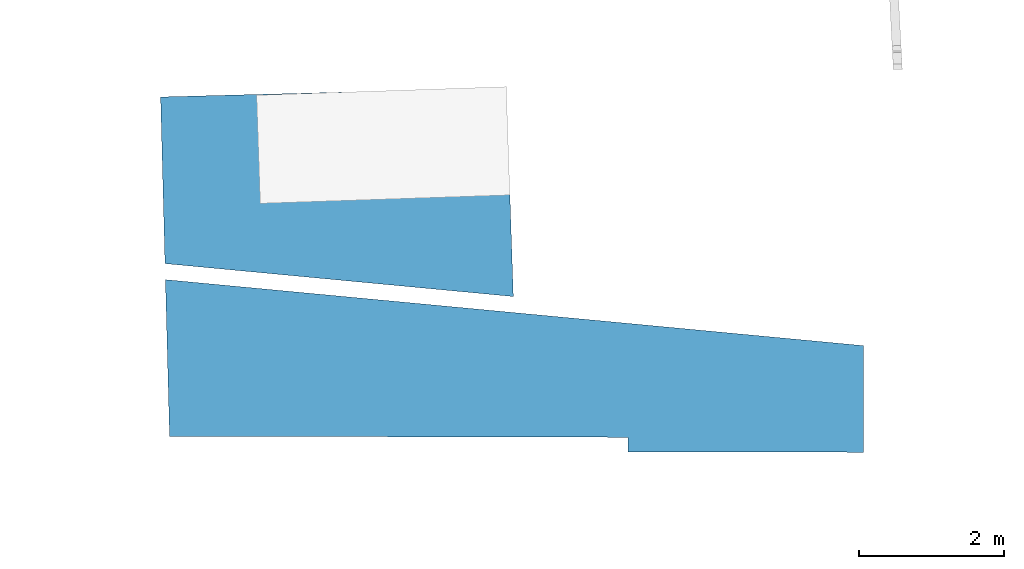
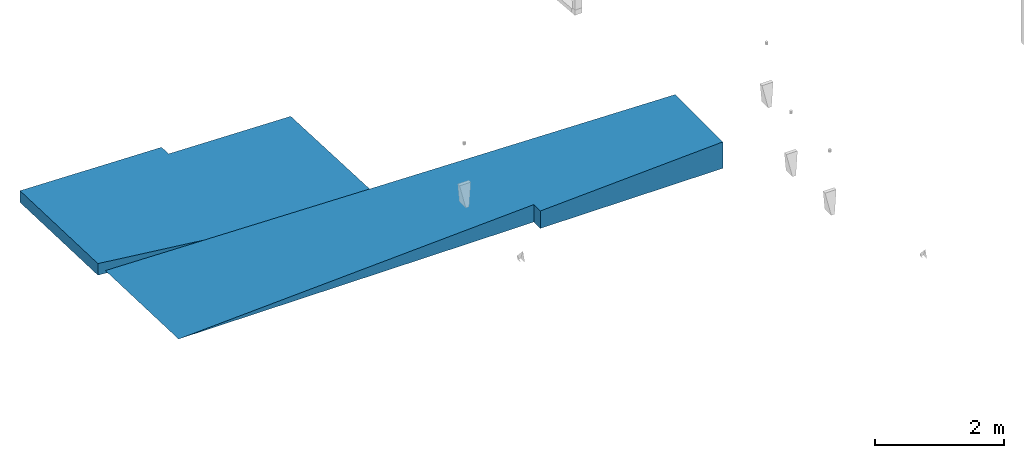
# One storey, part 2 of 4: 2 ramps.
"""IFC2X3 building model written with IfcOpenShell, lengths in metres."""

from ifc_helpers import new_model, entity, si_unit, converted_unit, derived_unit, direction, frame, origin, place, context, subcontext, project, spatial, faceted_brep, material, type_object, element, save


model = new_model("IFC2X3")

# Units and contexts
model_context = context("Model", 3, precision=1e-05, world=origin(), true_north=direction((6.123031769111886e-17, 1.0)))
body_context = subcontext(model_context, "Body", "Model", "MODEL_VIEW")
ifc_project = project(units=[si_unit("LENGTHUNIT", "METRE"), si_unit("AREAUNIT", "SQUARE_METRE"), converted_unit("PLANEANGLEUNIT", "DEGREE", entity("IfcPlaneAngleMeasure", 0.017453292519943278), si_unit("PLANEANGLEUNIT", "RADIAN"), dimensions=[0, 0, 0, 0, 0, 0, 0]), derived_unit("THERMALTRANSMITTANCEUNIT", [(si_unit("MASSUNIT", "GRAM", prefix="KILO"), 1), (si_unit("THERMODYNAMICTEMPERATUREUNIT", "KELVIN"), -1), (si_unit("TIMEUNIT", "SECOND"), -3)])], contexts=[model_context])

# Site, building, storey
site_placement = place(None, origin())
site = spatial("IfcSite", under=ifc_project, at=site_placement, Name="Default", CompositionType="ELEMENT")
building_placement = place(site_placement, origin())
building = spatial("IfcBuilding", under=site, at=building_placement, CompositionType="ELEMENT")
storey_placement = place(building_placement, frame((0.0, 0.0, -4.0)))
storey = spatial("IfcBuildingStorey", under=building, at=storey_placement, Name="Fondations", CompositionType="ELEMENT", Elevation=-3.999999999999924)

# Ramps
ifc_material = material(Name="ARC - Béton")
type_product_1 = type_object("IfcTypeProduct", Name="Rampe d'accès:Ra_Acces_700mm_Plein")
ramp_1_placement = place(storey_placement, frame((11.881771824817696, 147.288048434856, 3.2784047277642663)))
element("IfcRamp", 1, at=ramp_1_placement, inside=storey, type_object=type_product_1, material=ifc_material, Name="Rampe d'accès:Ra_Acces_700mm_Plein", ObjectType="Rampe d'accès:Ra_Acces_700mm_Plein", ShapeType="NOTDEFINED", context=body_context, shape_type="Brep", body=[
    faceted_brep([(0.0625595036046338, 0.45733905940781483, 0.0015952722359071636), (0.06255950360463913, 0.4573390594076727, 0.22159527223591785), (0.0015952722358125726, 2.762980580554, 0.22159527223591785), (0.0015952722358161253, 2.7629805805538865, 0.0015952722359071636), (4.54579291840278, 2.6732437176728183, 0.012908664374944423), (4.652586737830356, 1.3344860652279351, 0.010057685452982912), (4.8119040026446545, 2.0846043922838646, 0.0015952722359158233), (4.030727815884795, 1.4073843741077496, 0.03845897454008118), (3.7210665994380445, 1.5070019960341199, 0.05251172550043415), (3.8110777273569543, 0.10287182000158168, 0.05044962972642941), (4.801878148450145, 2.3821771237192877, 0.0015952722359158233), (4.791852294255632, 2.6797498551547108, 0.0015952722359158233), (2.5773180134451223, 2.621194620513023, 0.10341761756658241), (2.3689429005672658, 1.5042702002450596, 0.11452901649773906), (2.472319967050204, 0.22946738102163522, 0.11154619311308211), (2.2045685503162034, 0.25478648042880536, 0.12376846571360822), (2.174186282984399, 1.7378399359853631, 0.12314386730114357), (4.346581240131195, 0.05223355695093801, 0.02601994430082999), (4.633090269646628, 0.025140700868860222, 0.012952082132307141), (4.466412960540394, 1.3473077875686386, 0.018573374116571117), (3.5408098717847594, 1.409146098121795, 0.0609209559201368), (3.315496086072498, 2.640713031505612, 0.06947642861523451), (3.226360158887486, 1.5501821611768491, 0.07513800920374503), (3.543326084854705, 0.1281909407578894, 0.06266696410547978), (2.7400713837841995, 0.20414828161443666, 0.09932392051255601), (4.078829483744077, 0.07755268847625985, 0.0382347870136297), (4.216795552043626, 1.4350091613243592, 0.029885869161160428), (4.053674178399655, 2.660231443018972, 0.03553561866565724), (3.8076148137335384, 2.6537253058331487, 0.04684917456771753), (3.5615554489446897, 2.6472191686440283, 0.05816277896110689), (4.299733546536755, 2.666737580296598, 0.02422211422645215), (4.862033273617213, 0.5967407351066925, 0.0015952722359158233), (4.8520074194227, 0.8943134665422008, 0.0015952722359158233), (4.841981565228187, 1.1918861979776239, 0.0015952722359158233), (4.831955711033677, 1.489458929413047, 0.0015952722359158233), (4.8219298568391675, 1.7870316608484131, 0.0015952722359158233), (3.0694367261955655, 2.634206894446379, 0.08079012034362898), (1.6690659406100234, 0.30542465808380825, 0.14821790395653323), (1.4177893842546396, 1.560578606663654, 0.15808323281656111), (1.1335635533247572, 0.3560628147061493, 0.17267220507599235), (1.4013147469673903, 0.330743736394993, 0.1604450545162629), (0.3303104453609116, 0.43202000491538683, 0.20936330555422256), (0.5980613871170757, 0.4067009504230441, 0.19713133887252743), (0.2870016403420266, 2.7705271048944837, 0.20846795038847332), (0.8658124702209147, 0.3813818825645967, 0.18490177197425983), (0.8578143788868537, 2.7856201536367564, 0.18221332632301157), (0.5724080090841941, 2.778073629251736, 0.19534063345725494), (1.5920014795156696, 1.7189541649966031, 0.14988217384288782), (1.4286271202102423, 2.800713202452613, 0.15595876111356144), (1.9926402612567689, 1.486617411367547, 0.13181279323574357), (4.882084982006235, 0.0015952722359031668, 0.0015952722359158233), (4.872059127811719, 0.2991680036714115, 0.0015952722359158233), (1.1432207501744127, 2.7931666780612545, 0.16908603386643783), (2.860304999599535, 1.267790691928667, 0.09232545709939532), (3.007822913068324, 0.1788291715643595, 0.08710410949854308), (3.0472298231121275, 1.3845496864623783, 0.08358950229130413), (1.7140334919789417, 2.8082597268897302, 0.14283151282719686), (1.7980395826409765, 1.4542197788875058, 0.14078183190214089), (2.5726077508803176, 2.7609977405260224, 0.10343917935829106), (2.5702526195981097, 2.8308993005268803, 0.10344996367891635), (2.2848462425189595, 2.8233527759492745, 0.11657710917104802), (1.9368172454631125, 0.2801055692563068, 0.13599318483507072), (1.9994398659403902, 2.8158062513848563, 0.12970429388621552), (2.823377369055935, 2.627700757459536, 0.0921038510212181), (3.275574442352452, 0.15351006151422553, 0.07488429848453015), (2.5749628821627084, 2.6910961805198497, 0.10342839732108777), (2.570252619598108, 2.8308993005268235, 0.0015952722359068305), (2.577318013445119, 2.6211946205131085, 0.0015952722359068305)], [[[0, 1, 2, 3]], [[4, 5, 6]], [[7, 8, 9]], [[10, 11, 4, 6]], [[12, 13, 14]], [[15, 13, 16]], [[17, 18, 19]], [[20, 21, 22]], [[9, 20, 23]], [[24, 12, 14]], [[25, 26, 7]], [[19, 26, 17]], [[26, 27, 7]], [[8, 28, 29]], [[30, 27, 26]], [[5, 31, 32, 33, 34, 35, 6]], [[7, 28, 8]], [[22, 21, 36]], [[37, 38, 39, 40]], [[19, 4, 30]], [[41, 42, 43]], [[44, 39, 45]], [[5, 4, 19]], [[44, 46, 42]], [[38, 47, 48]], [[49, 15, 16]], [[50, 51, 31, 18]], [[25, 7, 9]], [[20, 9, 8]], [[22, 23, 20]], [[52, 38, 48]], [[5, 18, 31]], [[53, 54, 55]], [[56, 47, 57]], [[49, 56, 57]], [[13, 15, 14]], [[58, 59, 60]], [[47, 56, 48]], [[15, 49, 61]], [[62, 16, 60]], [[57, 47, 37]], [[56, 49, 62]], [[2, 41, 43]], [[63, 55, 36]], [[39, 52, 45]], [[24, 54, 53]], [[12, 53, 63]], [[41, 2, 1]], [[38, 52, 39]], [[64, 55, 54]], [[49, 16, 62]], [[65, 60, 12]], [[19, 30, 26]], [[12, 24, 53]], [[16, 13, 60]], [[53, 55, 63]], [[58, 60, 65]], [[55, 64, 22]], [[29, 21, 20]], [[46, 44, 45]], [[27, 28, 7]], [[13, 12, 60]], [[61, 49, 57]], [[8, 29, 20]], [[38, 37, 47]], [[42, 46, 43]], [[18, 5, 19]], [[22, 64, 23]], [[26, 25, 17]], [[37, 61, 57]], [[55, 22, 36]], [[51, 50, 0, 3, 66, 67, 11, 10, 6, 35, 34, 33, 32, 31]], [[0, 50, 18, 17, 25, 9, 23, 64, 54, 24, 14, 15, 61, 37, 40, 39, 44, 42, 41, 1]], [[21, 29, 28, 27, 30, 4, 11, 67, 12, 63, 36]], [[58, 65, 12, 67, 66, 59]], [[52, 48, 56, 62, 60, 59, 66, 3, 2, 43, 46, 45]]]),
])
type_product_2 = type_object("IfcTypeProduct", Name="Rampe d'accès:Ra_Acces_700mm_Plein")
ramp_2_placement = place(storey_placement, frame((11.948593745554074, 145.13362084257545, 3.498404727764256)))
element("IfcRamp", 2, at=ramp_2_placement, inside=storey, type_object=type_product_2, material=ifc_material, Name="Rampe d'accès:Ra_Acces_700mm_Plein", ObjectType="Rampe d'accès:Ra_Acces_700mm_Plein", ShapeType="NOTDEFINED", context=body_context, shape_type="Brep", body=[
    faceted_brep([(9.658450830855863, 1.4770600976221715, 0.5015952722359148), (9.658450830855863, 0.0015952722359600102, 0.5015952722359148), (9.658450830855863, 0.0015952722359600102, 0.0015952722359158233), (9.658450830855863, 1.4770600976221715, 0.0015952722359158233), (0.007961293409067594, 2.149471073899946, 0.0015952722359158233), (0.014327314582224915, 1.9087108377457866, 0.0015952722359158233), (0.020693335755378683, 1.6679506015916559, 0.0015952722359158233), (0.027059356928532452, 1.427190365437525, 0.0015952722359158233), (0.033425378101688, 1.1864301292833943, 0.0015952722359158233), (0.3064522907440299, 2.3614034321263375, 0.01733850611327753), (0.001595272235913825, 2.390231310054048, 0.0015952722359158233), (0.05252344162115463, 0.46414942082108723, 0.0015952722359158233), (0.05888946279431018, 0.22338918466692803, 0.0015952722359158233), (0.3613427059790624, 0.22270254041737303, 0.017341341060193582), (0.039791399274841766, 0.9456698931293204, 0.0015952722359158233), (0.04615742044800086, 0.7049096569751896, 0.0015952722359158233), (0.7635725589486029, 0.22178937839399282, 0.03828189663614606), (0.8063388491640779, 2.3141331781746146, 0.04315333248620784), (0.5380909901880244, 2.3394992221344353, 0.029300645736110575), (1.1159140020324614, 0.2209894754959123, 0.05662710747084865), (1.0745867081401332, 2.288767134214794, 0.05700601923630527), (3.757056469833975, 2.0351075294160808, 0.19570314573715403), (3.9346441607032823, 0.2145902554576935, 0.2034150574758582), (4.025302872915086, 2.0097416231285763, 0.20958390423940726), (4.110814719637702, 0.21419030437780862, 0.21259077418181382), (3.488810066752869, 2.060473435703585, 0.18182238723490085), (3.2299618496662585, 0.21619005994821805, 0.16671353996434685), (3.5823030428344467, 0.21539015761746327, 0.18506362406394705), (1.8793287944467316, 2.212669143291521, 0.09859283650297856), (1.6110814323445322, 2.2380351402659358, 0.08473056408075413), (1.8205967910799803, 0.21938966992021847, 0.09331929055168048), (9.39020661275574, 1.5024257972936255, 0.4876723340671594), (9.296464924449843, 0.002417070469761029, 0.4827251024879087), (6.400728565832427, 0.07565795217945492, 0.33181041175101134), (6.400577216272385, 0.008991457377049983, 0.3317713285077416), (6.551627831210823, 0.008648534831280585, 0.3396446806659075), (2.415823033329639, 2.161937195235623, 0.12632673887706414), (2.147576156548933, 2.187303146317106, 0.11245510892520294), (2.1729381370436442, 0.21858976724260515, 0.11166626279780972), (1.342834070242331, 2.263401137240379, 0.07086829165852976), (1.46825544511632, 0.2201895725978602, 0.07497231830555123), (3.220563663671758, 2.085839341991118, 0.16794162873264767), (3.053791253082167, 0.21659001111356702, 0.15753849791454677), (4.561795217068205, 1.9590098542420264, 0.23735431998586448), (4.293549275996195, 1.9843757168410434, 0.22346466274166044), (4.286985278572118, 0.21379035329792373, 0.2217664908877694), (4.639326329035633, 0.21299045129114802, 0.24011913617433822), (4.830041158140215, 1.933643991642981, 0.2512439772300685), (5.696349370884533, 0.21059074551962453, 0.29517922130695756), (5.903024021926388, 1.8321806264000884, 0.306819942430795), (5.634778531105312, 1.8575464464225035, 0.2929216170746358), (2.5252793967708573, 0.21778986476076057, 0.13001485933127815), (6.4010312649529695, 0.20899094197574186, 0.3318885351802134), (6.171269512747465, 1.8068148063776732, 0.3207182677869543), (6.0486903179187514, 0.209790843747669, 0.3135338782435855), (6.224860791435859, 0.20939089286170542, 0.32271120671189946), (2.6840699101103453, 2.136571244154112, 0.14019836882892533), (2.877620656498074, 0.2169899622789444, 0.14836345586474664), (2.9523167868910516, 2.111205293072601, 0.15406999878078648), (4.991667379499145, 0.21219054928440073, 0.2584717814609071), (0.5624576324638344, 0.22224595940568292, 0.027811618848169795), (7.5124953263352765, 1.6799858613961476, 0.39024364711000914), (7.305542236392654, 0.006936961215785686, 0.3789424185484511), (7.486535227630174, 0.006526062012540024, 0.3883768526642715), (8.048984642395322, 1.629254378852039, 0.41807358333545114), (8.210507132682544, 0.004882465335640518, 0.4261154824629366), (8.317229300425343, 1.6038886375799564, 0.4319885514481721), (6.762563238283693, 0.008169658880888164, 0.35063946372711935), (6.707760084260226, 1.756083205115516, 0.34852335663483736), (5.098287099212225, 1.9082781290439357, 0.26513363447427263), (5.167837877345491, 0.21179059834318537, 0.26764864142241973), (6.976005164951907, 1.730717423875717, 0.3624301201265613), (7.1245492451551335, 0.007347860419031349, 0.3695079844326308), (7.244250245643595, 1.705351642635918, 0.3763368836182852), (7.848521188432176, 0.005704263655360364, 0.40724603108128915), (7.780739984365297, 1.6546201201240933, 0.4041586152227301), (9.121962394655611, 1.527791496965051, 0.4737493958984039), (8.934479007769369, 0.003238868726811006, 0.46385505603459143), (8.585473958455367, 1.578522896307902, 0.4459035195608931), (8.391500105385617, 0.004471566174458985, 0.43555032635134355), (8.57249307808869, 0.004060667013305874, 0.4449851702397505), (8.853718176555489, 1.5531571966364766, 0.45982645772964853), (6.400879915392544, 0.14232444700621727, 0.33184948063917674), (5.344008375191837, 0.21139064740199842, 0.27682550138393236), (5.366533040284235, 1.8829122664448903, 0.2790232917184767), (6.439515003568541, 1.7814489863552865, 0.3346165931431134), (6.4005772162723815, 0.008991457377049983, 0.0015952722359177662), (6.4010312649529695, 0.20899094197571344, 0.0015952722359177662)], [[[0, 1, 2, 3]], [[4, 5, 6, 7, 8, 9, 10]], [[11, 12, 13, 8, 14, 15]], [[16, 17, 18]], [[17, 19, 20]], [[21, 22, 23]], [[23, 22, 24]], [[25, 26, 27]], [[19, 17, 16]], [[28, 29, 30]], [[1, 31, 32]], [[33, 34, 35]], [[36, 37, 38]], [[39, 19, 40]], [[41, 42, 26]], [[43, 44, 45]], [[24, 44, 23]], [[46, 47, 43]], [[8, 13, 9]], [[48, 49, 50]], [[40, 29, 39]], [[38, 51, 36]], [[27, 21, 25]], [[29, 40, 30]], [[25, 41, 26]], [[44, 24, 45]], [[39, 20, 19]], [[38, 37, 28]], [[52, 53, 54, 55]], [[56, 57, 58]], [[58, 57, 42]], [[59, 47, 46]], [[9, 60, 18]], [[61, 62, 63]], [[64, 65, 66]], [[67, 68, 35]], [[69, 59, 70]], [[71, 72, 73]], [[71, 67, 72]], [[74, 75, 63]], [[73, 72, 62]], [[32, 76, 77]], [[51, 57, 56]], [[78, 79, 80]], [[49, 54, 53]], [[80, 77, 81]], [[65, 64, 74]], [[38, 28, 30]], [[66, 65, 79]], [[31, 1, 0]], [[79, 78, 66]], [[35, 82, 33]], [[50, 83, 48]], [[70, 84, 69]], [[83, 50, 84]], [[46, 43, 45]], [[32, 31, 76]], [[62, 61, 73]], [[68, 85, 35]], [[63, 75, 61]], [[49, 48, 54]], [[52, 35, 85]], [[82, 35, 52]], [[21, 27, 22]], [[77, 76, 81]], [[85, 53, 52]], [[78, 80, 81]], [[84, 70, 83]], [[51, 56, 36]], [[42, 41, 58]], [[47, 59, 69]], [[67, 71, 68]], [[74, 64, 75]], [[60, 9, 13]], [[60, 16, 18]], [[4, 10, 3, 2, 86, 87, 12, 11, 15, 14, 8, 7, 6, 5]], [[3, 10, 9, 18, 17, 20, 39, 29, 28, 37, 36, 56, 58, 41, 25, 21, 23, 44, 43, 47, 69, 84, 50, 49, 53, 85, 68, 71, 73, 61, 75, 64, 66, 78, 81, 76, 31, 0]], [[65, 74, 63, 62, 72, 67, 35, 34, 86, 2, 1, 32, 77, 80, 79]], [[87, 52, 55, 54, 48, 83, 70, 59, 46, 45, 24, 22, 27, 26, 42, 57, 51, 38, 30, 40, 19, 16, 60, 13, 12]], [[82, 52, 87, 86, 34, 33]]]),
])

save(model, "model.ifc")
